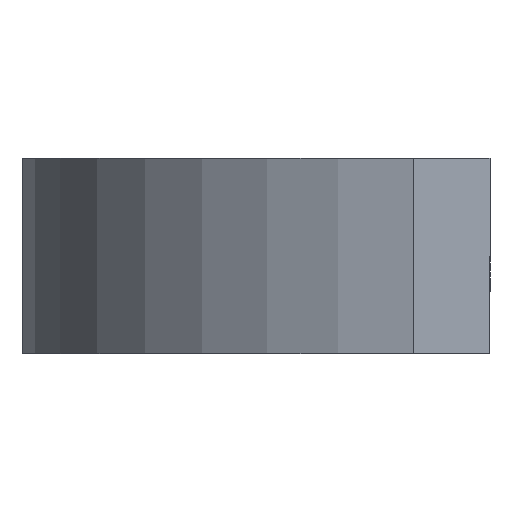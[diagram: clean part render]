
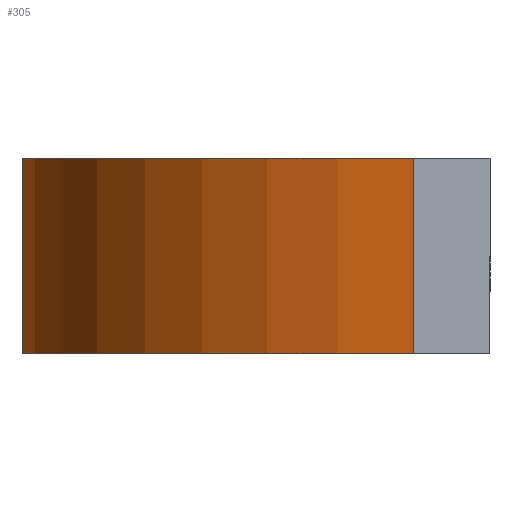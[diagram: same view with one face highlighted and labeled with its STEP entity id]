
A CAD part, left-side view. The second image highlights one B-rep face of the part: STEP entity #305.
In plain terms, the highlighted cylindrical face has radius 35.56 mm (diameter 71.12 mm), a partial arc.
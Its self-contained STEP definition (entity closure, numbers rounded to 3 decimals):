
#19=CYLINDRICAL_SURFACE('',#360,35.56);
#39=FACE_OUTER_BOUND('',#59,.T.);
#59=EDGE_LOOP('',(#269,#270,#271,#272));
#63=CIRCLE('',#333,35.56);
#74=CIRCLE('',#345,35.56);
#99=LINE('',#530,#125);
#101=LINE('',#534,#127);
#125=VECTOR('',#436,10.);
#127=VECTOR('',#442,10.);
#134=VERTEX_POINT('',#463);
#135=VERTEX_POINT('',#465);
#152=VERTEX_POINT('',#500);
#153=VERTEX_POINT('',#502);
#162=EDGE_CURVE('',#135,#134,#63,.T.);
#180=EDGE_CURVE('',#152,#153,#74,.T.);
#195=EDGE_CURVE('',#134,#153,#99,.T.);
#197=EDGE_CURVE('',#152,#135,#101,.T.);
#269=ORIENTED_EDGE('',*,*,#195,.T.);
#270=ORIENTED_EDGE('',*,*,#180,.F.);
#271=ORIENTED_EDGE('',*,*,#197,.T.);
#272=ORIENTED_EDGE('',*,*,#162,.T.);
#305=ADVANCED_FACE('',(#39),#19,.T.);
#333=AXIS2_PLACEMENT_3D('',#466,#371,#372);
#345=AXIS2_PLACEMENT_3D('',#503,#402,#403);
#360=AXIS2_PLACEMENT_3D('',#537,#446,#447);
#371=DIRECTION('center_axis',(0.,0.,
-1.));
#372=DIRECTION('ref_axis',(-1.,0.,0.));
#402=DIRECTION('center_axis',(0.,0.,
-1.));
#403=DIRECTION('ref_axis',(-1.,0.,0.));
#436=DIRECTION('',(0.,0.,-1.));
#442=DIRECTION('',(0.,0.,1.));
#446=DIRECTION('center_axis',(0.,0.,
-1.));
#447=DIRECTION('ref_axis',(-1.,0.,0.));
#463=CARTESIAN_POINT('',(35.05,6.,-5.35));
#465=CARTESIAN_POINT('',(-35.05,6.,-5.35));
#466=CARTESIAN_POINT('Origin',(0.,0.,
-5.35));
#500=CARTESIAN_POINT('',(-35.05,6.,-20.05));
#502=CARTESIAN_POINT('',(35.05,6.,-20.05));
#503=CARTESIAN_POINT('Origin',(0.,0.,
-20.05));
#530=CARTESIAN_POINT('',(35.05,6.,-6.35));
#534=CARTESIAN_POINT('',(-35.05,6.,-6.35));
#537=CARTESIAN_POINT('Origin',(0.,0.,
-6.35));
